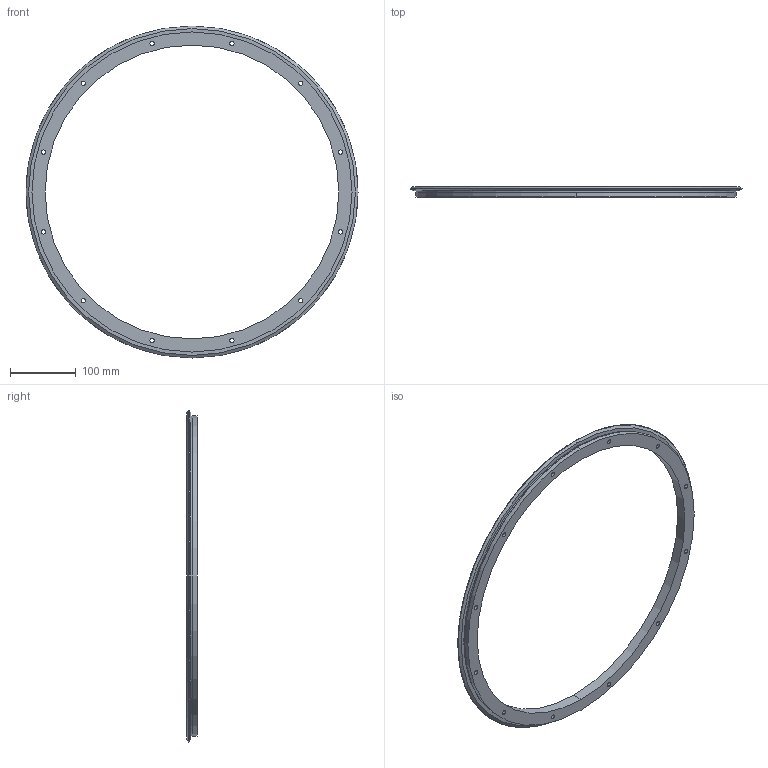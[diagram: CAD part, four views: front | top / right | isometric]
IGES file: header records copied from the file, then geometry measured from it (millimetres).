
Start section: 3D InterOp IGES (v. 2020 1.0.1), Spatial Corp. Copyright (c) 1999-2017.
Global section: file name: rem_505_r360.igs; native system: Spatial Corp.; preprocessor: 3D InterOp ACIS/IGES; author: TraceParts; organization: TraceParts S.A.; date: 20220624.101649; units: millimetre
Bounding box: 505.72 x 15.5 x 505.72 mm (x, y, z)
Surface area: 132712.3 mm2 (no closed solid volume)
Topology: 0 solids, 0 shells, 78 faces, 360 edges, 360 vertices
Faces by surface type: revolution 62, extrusion 16
